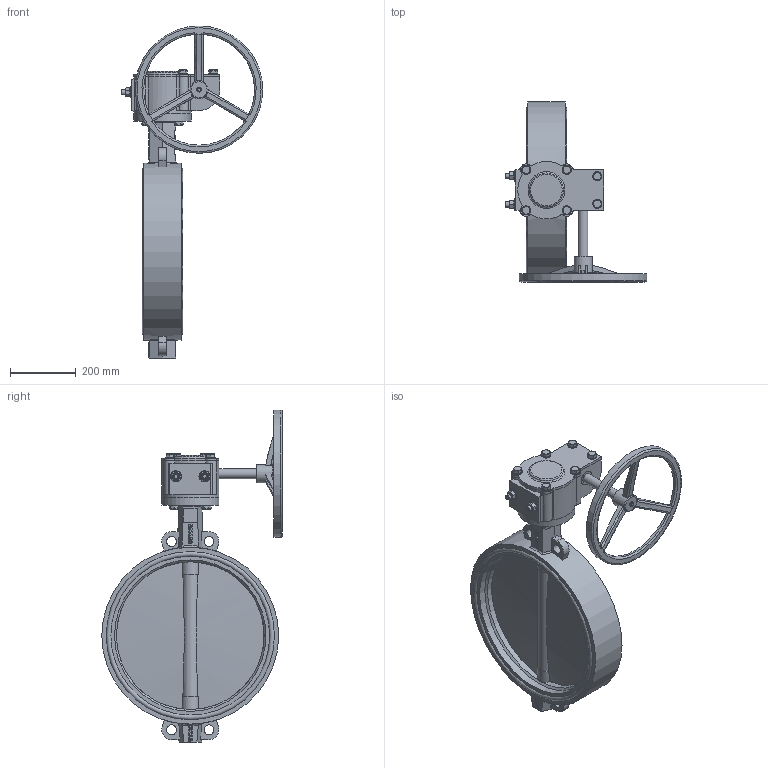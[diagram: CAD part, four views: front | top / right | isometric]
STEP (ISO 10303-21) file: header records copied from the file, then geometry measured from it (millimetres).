
FILE_DESCRIPTION(('STEP AP242'), '1');
FILE_NAME('Ïîâîðîòíûé çàòâîð ïîä ýëåêòðîïðèâîä', '', ('UNSPECIFIED'), ('UNSPECIFIED'), 'C3D Converter', 'C3D Toolkit', '');
FILE_SCHEMA(('AP242_MANAGED_MODEL_BASED_3D_ENGINEERING_MIM_LF { 1 0 10303 442 1 1 4 }'));
Length unit declared in the file: millimetre
Products named in the file (17): П
Assembly tree (36 placements, depth 3):
  (unnamed)
    (unnamed)
    П  x2
    (unnamed)
    (unnamed)
    (unnamed)
    (unnamed)
      (unnamed)
      (unnamed)
      (unnamed)
      (unnamed)
      (unnamed)  x6
      (unnamed)  x6
      (unnamed)  x2
      (unnamed)  x2
      (unnamed)
    (unnamed)  x4
    (unnamed)  x4
Bounding box: 431 x 549.5 x 1011.5 mm (x, y, z)
Volume: 19253115.1 mm3; surface area: 2280634.6 mm2
Topology: 35 solids, 35 shells, 822 faces, 1961 edges, 1267 vertices
Faces by surface type: plane 402, cylinder 147, extrusion 135, bspline 61, cone 44, torus 29, sphere 4
Full cylindrical faces by diameter (mm): 6 x2, 12.564 x1, 14.376 x2, 16 x30, 17 x10, 18 x4, 28 x10, 30 x7, 36 x6, 45 x2, 50.912 x5, 54.15 x4, 55 x1, 175 x2, 338 x1, 348 x1, 378 x1, 388 x1, 450 x1, 461.4 x2, 484.2 x2, 498.3 x4, 512.4 x4, 539 x1
Entity records: 33723 total; most frequent: CARTESIAN_POINT 15956, ORIENTED_EDGE 3044, DIRECTION 2427, EDGE_CURVE 1522, VERTEX_POINT 1061, EDGE_LOOP 869, VECTOR 827, AXIS2_PLACEMENT_3D 800
